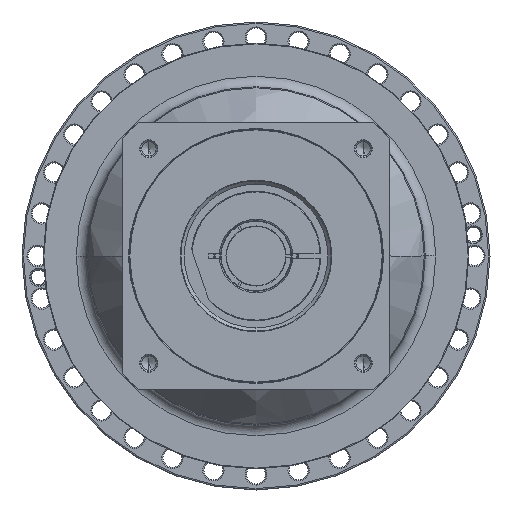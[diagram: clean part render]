
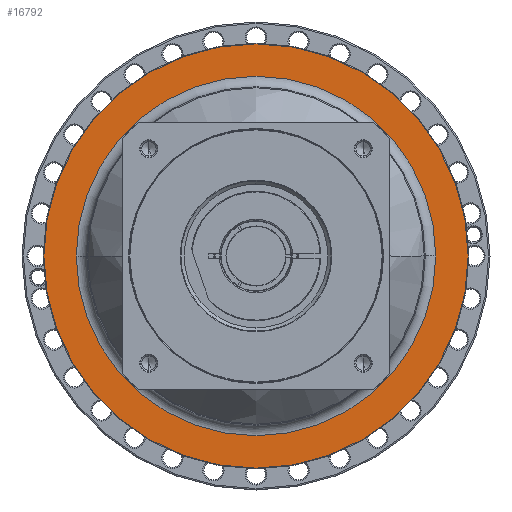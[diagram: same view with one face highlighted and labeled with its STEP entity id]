
A CAD part, left-side view. The second image highlights one B-rep face of the part: STEP entity #16792.
In plain terms, the highlighted planar face has unit normal (-1, 0, 0) as drawn and (1, 0, 0) by its records, which use the part's own axes.
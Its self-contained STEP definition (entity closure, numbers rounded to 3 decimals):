
#16305=CARTESIAN_POINT('',(-53.984,0.,0.));
#16306=DIRECTION('',(1.,0.,0.));
#16307=DIRECTION('',(0.,1.,0.));
#16308=AXIS2_PLACEMENT_3D('',#16305,#16306,#16307);
#16310=CARTESIAN_POINT('',(-53.984,0.,0.));
#16311=DIRECTION('',(1.,0.,0.));
#16312=DIRECTION('',(0.,-1.,0.));
#16313=AXIS2_PLACEMENT_3D('',#16310,#16311,#16312);
#16315=CARTESIAN_POINT('',(-54.,0.,0.));
#16316=DIRECTION('',(-1.,0.,0.));
#16317=DIRECTION('',(0.,-1.,0.));
#16318=AXIS2_PLACEMENT_3D('',#16315,#16316,#16317);
#16320=CARTESIAN_POINT('',(-54.,0.,0.));
#16321=DIRECTION('',(-1.,0.,0.));
#16322=DIRECTION('',(0.,1.,0.));
#16323=AXIS2_PLACEMENT_3D('',#16320,#16321,#16322);
#16445=CARTESIAN_POINT('',(-54.,-150.5,0.));
#16446=CARTESIAN_POINT('',(-54.,150.5,0.));
#16447=VERTEX_POINT('',#16445);
#16448=VERTEX_POINT('',#16446);
#16501=CARTESIAN_POINT('',(-53.984,127.5,0.));
#16502=VERTEX_POINT('',#16501);
#16503=CARTESIAN_POINT('',(-53.984,-127.5,0.));
#16504=VERTEX_POINT('',#16503);
#16777=CARTESIAN_POINT('',(-54.,0.,0.));
#16778=DIRECTION('',(1.,0.,0.));
#16779=DIRECTION('',(0.,-1.,0.));
#16780=AXIS2_PLACEMENT_3D('',#16777,#16778,#16779);
#16781=PLANE('',#16780);
#16783=ORIENTED_EDGE('',*,*,#16782,.T.);
#16785=ORIENTED_EDGE('',*,*,#16784,.T.);
#16786=EDGE_LOOP('',(#16783,#16785));
#16787=FACE_OUTER_BOUND('',#16786,.F.);
#16788=ORIENTED_EDGE('',*,*,#16771,.T.);
#16789=ORIENTED_EDGE('',*,*,#16757,.T.);
#16790=EDGE_LOOP('',(#16788,#16789));
#16791=FACE_BOUND('',#16790,.F.);
#16792=ADVANCED_FACE('',(#16787,#16791),#16781,.T.);
#16309=CIRCLE('',#16308,127.5);
#16314=CIRCLE('',#16313,127.5);
#16319=CIRCLE('',#16318,150.5);
#16324=CIRCLE('',#16323,150.5);
#16757=EDGE_CURVE('',#16504,#16502,#16314,.T.);
#16771=EDGE_CURVE('',#16502,#16504,#16309,.T.);
#16782=EDGE_CURVE('',#16447,#16448,#16319,.T.);
#16784=EDGE_CURVE('',#16448,#16447,#16324,.T.);
